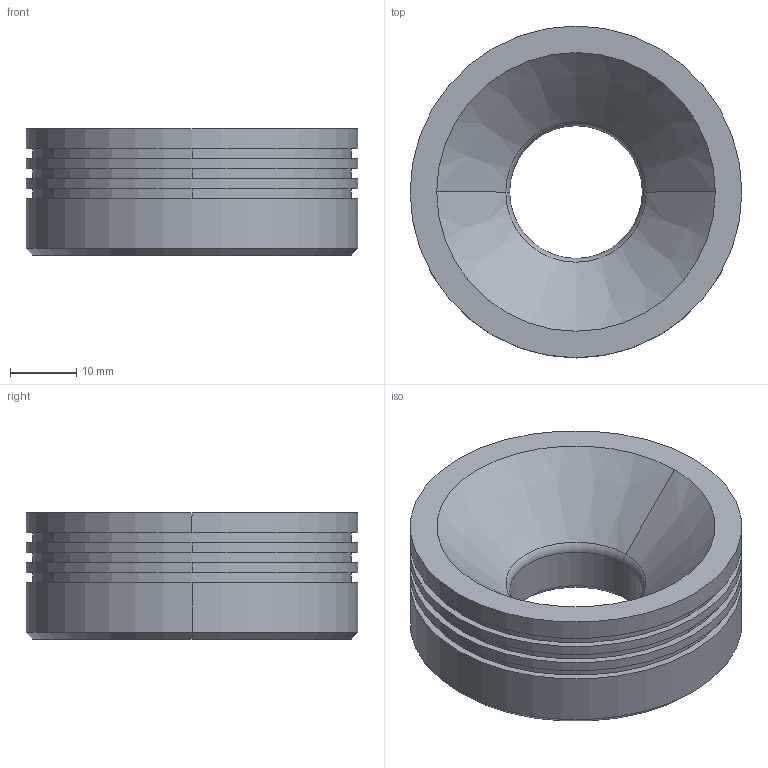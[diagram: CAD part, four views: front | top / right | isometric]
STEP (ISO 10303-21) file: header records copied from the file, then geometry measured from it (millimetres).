
FILE_DESCRIPTION((''),'2;1');
FILE_NAME('DRL7030','2020-03-27T',('ASUS'),(''),'PRO/ENGINEER BY PARAMETRIC TECHNOLOGY CORPORATION, 2008380','PRO/ENGINEER BY PARAMETRIC TECHNOLOGY CORPORATION, 2008380','');
FILE_SCHEMA(('CONFIG_CONTROL_DESIGN'));
Length unit declared in the file: millimetre
Products named in the file (1): DRL7030
Bounding box: 50 x 50 x 19 mm (x, y, z)
Volume: 25171.3 mm3; surface area: 8435.2 mm2
Topology: 1 solids, 5 shells, 68 faces, 152 edges, 92 vertices
Faces by surface type: cylinder 32, cone 22, plane 12, torus 2
Entity records: 1901 total; most frequent: DIRECTION 372, CARTESIAN_POINT 305, ORIENTED_EDGE 272, AXIS2_PLACEMENT_3D 159, EDGE_CURVE 144, VERTEX_POINT 92, CIRCLE 90, EDGE_LOOP 84
